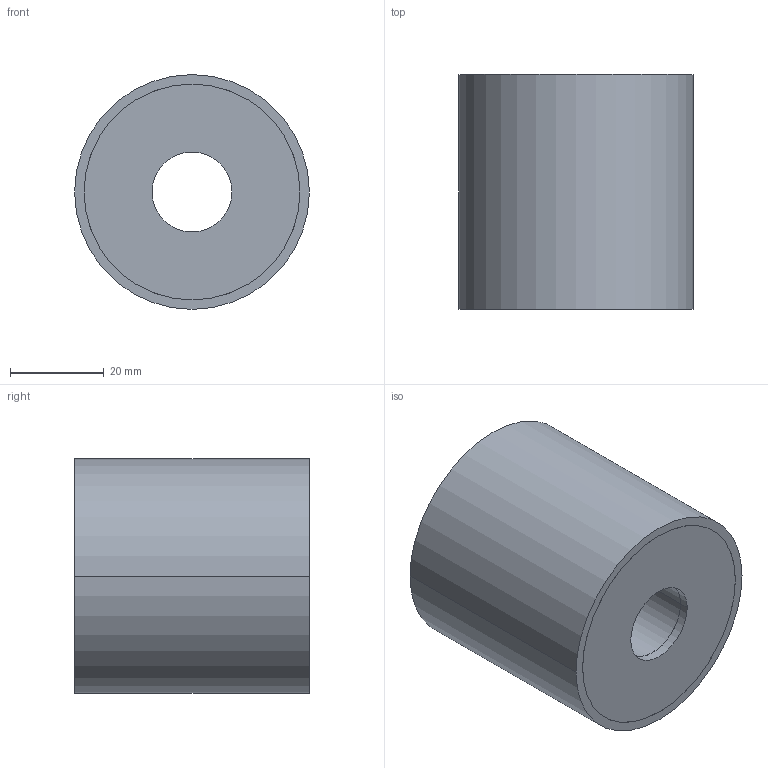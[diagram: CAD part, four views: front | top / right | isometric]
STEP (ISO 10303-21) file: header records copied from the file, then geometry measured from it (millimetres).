
FILE_DESCRIPTION (( 'STEP AP214' ), '1' );
FILE_NAME ('351-50-50-17-DD-70.step', '2025-07-23T10:11:34', ( '' ), ( '' ), 'SwSTEP 2.0', 'SolidWorks 2022', '' );
FILE_SCHEMA (( 'AUTOMOTIVE_DESIGN' ));
Length unit declared in the file: millimetre
Products named in the file (1): 351-50-50-17-DD-70
Bounding box: 50 x 50 x 50 mm (x, y, z)
Volume: 86825.7 mm3; surface area: 14005.3 mm2
Topology: 1 solids, 1 shells, 30 faces, 60 edges, 40 vertices
Faces by surface type: cylinder 20, plane 10
Entity records: 919 total; most frequent: DIRECTION 162, CARTESIAN_POINT 131, ORIENTED_EDGE 120, AXIS2_PLACEMENT_3D 71, EDGE_CURVE 60, EDGE_LOOP 40, CIRCLE 40, VERTEX_POINT 40
